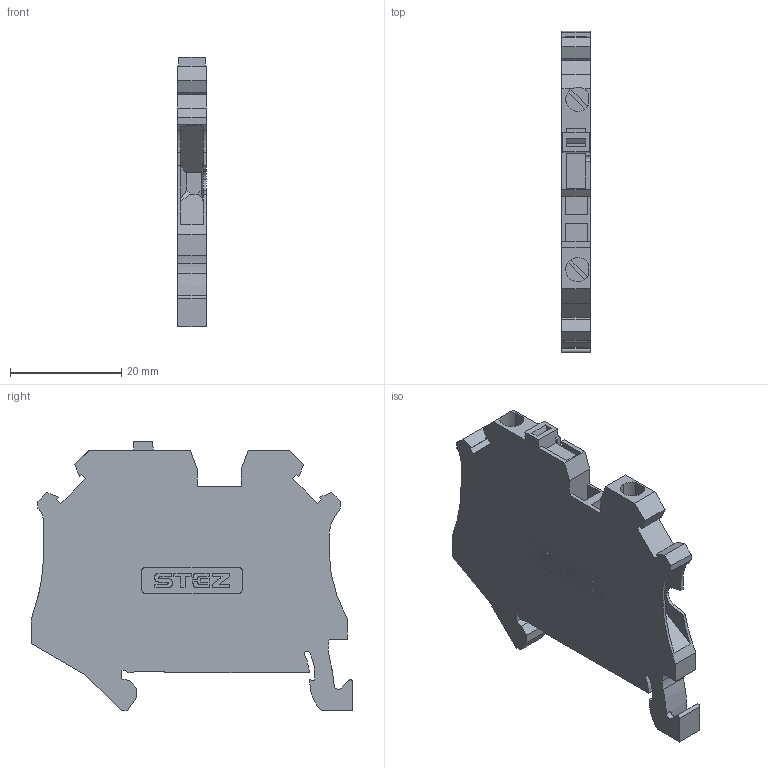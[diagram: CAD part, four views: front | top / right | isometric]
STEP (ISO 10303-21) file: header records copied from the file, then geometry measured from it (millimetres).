
FILE_DESCRIPTION(('TFLEX Exchange Step'),'2;1');
FILE_NAME('11200002_КНВ_2,5-2-РЗМ.stp', '2024-03-13T13:16:55+03:00',('apanin'),('Unknown organisation'),'TFLEX Exchange 2023.2','T-FLEX CAD','Unknown authorisation');
FILE_SCHEMA( ('AUTOMOTIVE_DESIGN { 1 0 10303 214 1 1 1 1 }') );
Length unit declared in the file: millimetre
Products named in the file (1): Тело_1 - UT_2.5-MT-select:1
Bounding box: 5.15 x 57.8 x 48.45 mm (x, y, z)
Volume: 9119.1 mm3; surface area: 6423.2 mm2
Topology: 1 solids, 1 shells, 401 faces, 1162 edges, 772 vertices
Faces by surface type: plane 206, cylinder 192, extrusion 3
Entity records: 13472 total; most frequent: CARTESIAN_POINT 2434, DIRECTION 2356, ORIENTED_EDGE 2324, EDGE_CURVE 1162, AXIS2_PLACEMENT_3D 797, VERTEX_POINT 772, VECTOR 762, LINE 759
